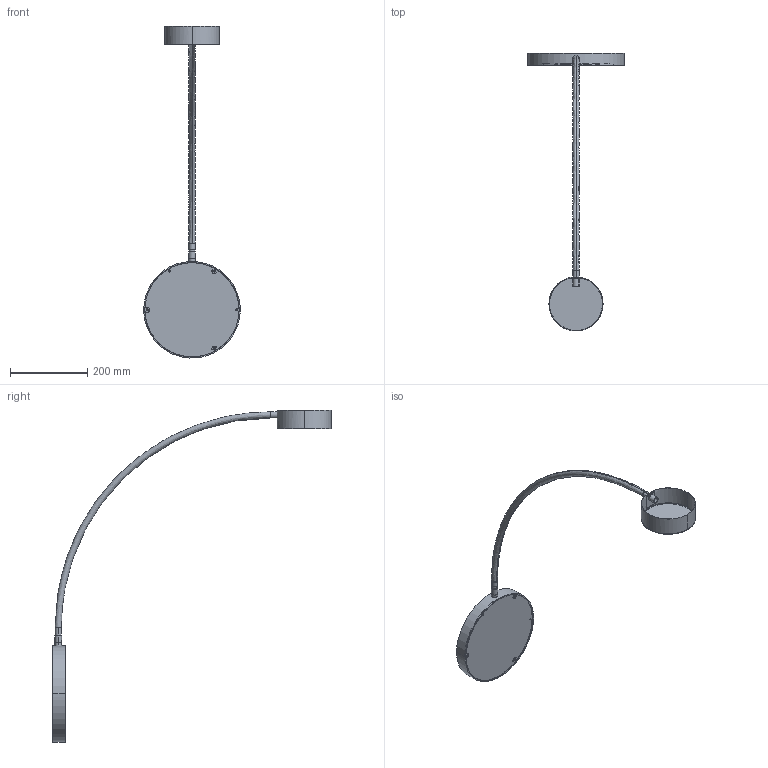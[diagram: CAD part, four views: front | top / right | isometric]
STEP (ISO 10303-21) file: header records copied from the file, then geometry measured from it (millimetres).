
FILE_DESCRIPTION(/* description */ (''),/* implementation_level */ '2;1');
FILE_NAME(/* name */ 'A084__~1',/* time_stamp */ '2024-07-01T14:52:57+02:00',/* author */ (''),/* organization */ (''),/* preprocessor_version */ 'ST-DEVELOPER v16.5',/* originating_system */ '',/* authorisation */ '');
FILE_SCHEMA (('AUTOMOTIVE_DESIGN'));
Length unit declared in the file: millimetre
Products named in the file (1): Document
Bounding box: 250 x 720.56 x 859.54 mm (x, y, z)
Volume: 725839.5 mm3; surface area: 469532.6 mm2
Topology: 15 solids, 15 shells, 418 faces, 1042 edges, 651 vertices
Faces by surface type: bspline 258, plane 160
Entity records: 16448 total; most frequent: CARTESIAN_POINT 10193, ORIENTED_EDGE 2058, EDGE_CURVE 1029, VERTEX_POINT 651, B_SPLINE_CURVE_WITH_KNOTS 606, EDGE_LOOP 450, ADVANCED_FACE 418, FACE_OUTER_BOUND 418
